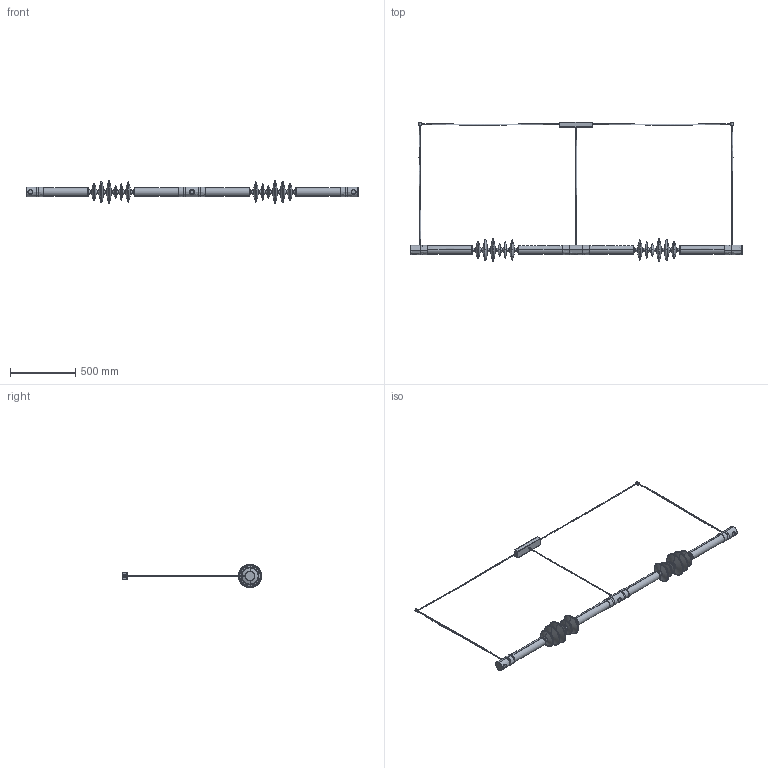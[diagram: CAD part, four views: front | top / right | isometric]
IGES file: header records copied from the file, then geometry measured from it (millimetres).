
Start section: SolidWorks IGES file using analytic representation for surfaces
Global section: file name: G:\Drive condivisi\Ufficio Tecnico\Research\X21 Filamento\Progetto\ATC-X21-S5\Architetti\Filamento Horizontal Double, Shape 2+2.IGS; native system: SolidWorks 2025; preprocessor: SolidWorks 2025; author: Tecnico01; date: 260430.112213; units: millimetre
Bounding box: 2550 x 1068 x 177 mm (x, y, z)
Surface area: 1908093.3 mm2 (no closed solid volume)
Topology: 0 solids, 0 shells, 1060 faces, 14824 edges, 14812 vertices
Faces by surface type: revolution 535, bspline 525
